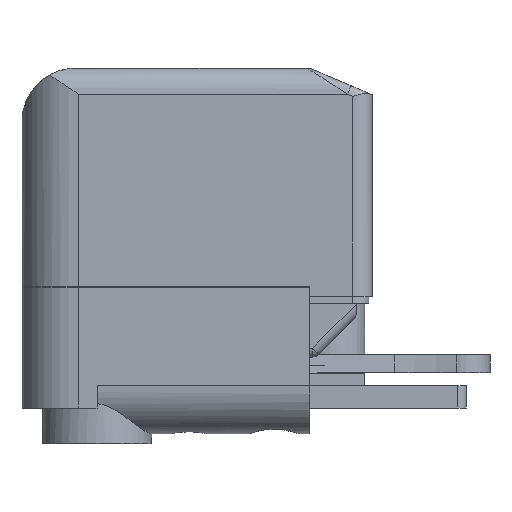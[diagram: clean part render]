
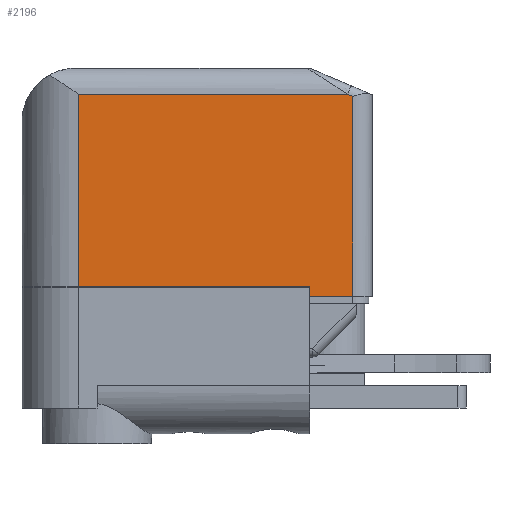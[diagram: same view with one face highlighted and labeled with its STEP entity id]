
A CAD part, front view. The second image highlights one B-rep face of the part: STEP entity #2196.
In plain terms, the highlighted planar face has unit normal (0, -1, 0).
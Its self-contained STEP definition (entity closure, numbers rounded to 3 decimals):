
#1637=CARTESIAN_POINT('',(11.904,-12.092,0.));
#1638=VERTEX_POINT('',#1637);
#1645=CARTESIAN_POINT('',(11.904,-12.092,1.0));
#1646=VERTEX_POINT('',#1645);
#1647=CARTESIAN_POINT('',(11.904,-12.092,1.0));
#1648=DIRECTION('',(0.0,0.0,-1.0));
#1649=VECTOR('',#1648,1.0);
#1650=LINE('',#1647,#1649);
#1651=EDGE_CURVE('',#1646,#1638,#1650,.T.);
#1807=CARTESIAN_POINT('',(-13.986,-12.092,1.0));
#1808=VERTEX_POINT('',#1807);
#1809=CARTESIAN_POINT('',(-13.986,-12.092,1.0));
#1810=DIRECTION('',(1.0,0.0,0.0));
#1811=VECTOR('',#1810,25.89);
#1812=LINE('',#1809,#1811);
#1813=EDGE_CURVE('',#1808,#1646,#1812,.T.);
#2133=CARTESIAN_POINT('',(-13.986,-12.092,22.6));
#2134=VERTEX_POINT('',#2133);
#2135=CARTESIAN_POINT('',(-13.986,-12.092,1.0));
#2136=DIRECTION('',(0.0,0.0,1.0));
#2137=VECTOR('',#2136,21.6);
#2138=LINE('',#2135,#2137);
#2139=EDGE_CURVE('',#1808,#2134,#2138,.T.);
#2156=CARTESIAN_POINT('',(16.704,-12.092,0.0));
#2157=DIRECTION('',(0.0,-1.0,0.0));
#2158=DIRECTION('',(0.0,0.0,-1.0));
#2159=AXIS2_PLACEMENT_3D('',#2156,#2157,#2158);
#2160=PLANE('',#2159);
#2161=ORIENTED_EDGE('',*,*,#1813,.T.);
#2162=ORIENTED_EDGE('',*,*,#1651,.T.);
#2163=CARTESIAN_POINT('',(16.704,-12.092,0.));
#2164=VERTEX_POINT('',#2163);
#2165=CARTESIAN_POINT('',(11.904,-12.092,0.0));
#2166=DIRECTION('',(1.0,0.0,0.0));
#2167=VECTOR('',#2166,4.8);
#2168=LINE('',#2165,#2167);
#2169=EDGE_CURVE('',#1638,#2164,#2168,.T.);
#2170=ORIENTED_EDGE('',*,*,#2169,.T.);
#2171=CARTESIAN_POINT('',(16.704,-12.092,22.355));
#2172=VERTEX_POINT('',#2171);
#2173=CARTESIAN_POINT('',(16.704,-12.092,0.));
#2174=DIRECTION('',(0.0,0.0,1.0));
#2175=VECTOR('',#2174,22.355);
#2176=LINE('',#2173,#2175);
#2177=EDGE_CURVE('',#2164,#2172,#2176,.T.);
#2178=ORIENTED_EDGE('',*,*,#2177,.T.);
#2179=CARTESIAN_POINT('',(16.132,-12.092,22.6));
#2180=VERTEX_POINT('',#2179);
#2181=CARTESIAN_POINT('',(16.132,-12.092,22.6));
#2182=DIRECTION('',(0.919,0.0,-0.394));
#2183=VECTOR('',#2182,0.622);
#2184=LINE('',#2181,#2183);
#2185=EDGE_CURVE('',#2180,#2172,#2184,.T.);
#2186=ORIENTED_EDGE('',*,*,#2185,.F.);
#2187=CARTESIAN_POINT('',(-13.986,-12.092,22.6));
#2188=DIRECTION('',(1.0,0.0,0.0));
#2189=VECTOR('',#2188,30.118);
#2190=LINE('',#2187,#2189);
#2191=EDGE_CURVE('',#2134,#2180,#2190,.T.);
#2192=ORIENTED_EDGE('',*,*,#2191,.F.);
#2193=ORIENTED_EDGE('',*,*,#2139,.F.);
#2194=EDGE_LOOP('',(#2161,#2162,#2170,#2178,#2186,#2192,#2193));
#2195=FACE_OUTER_BOUND('',#2194,.T.);
#2196=ADVANCED_FACE('',(#2195),#2160,.T.);
